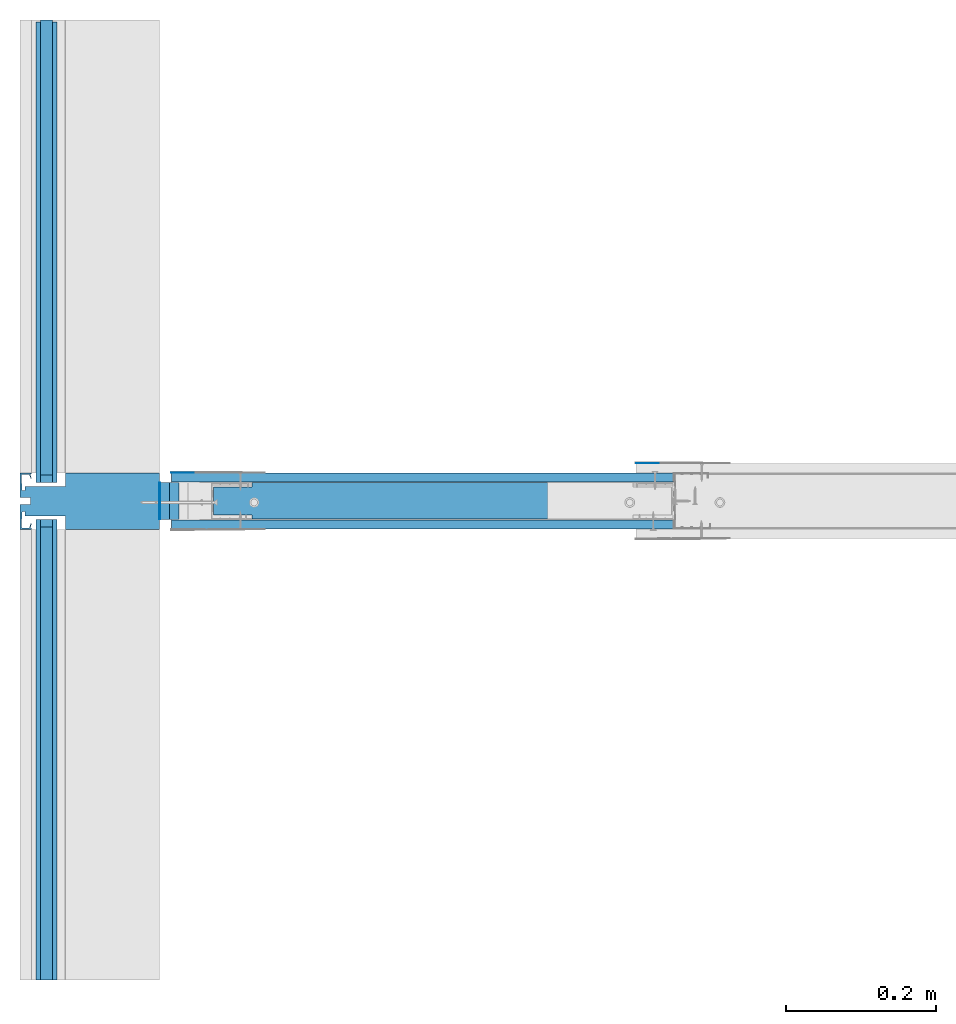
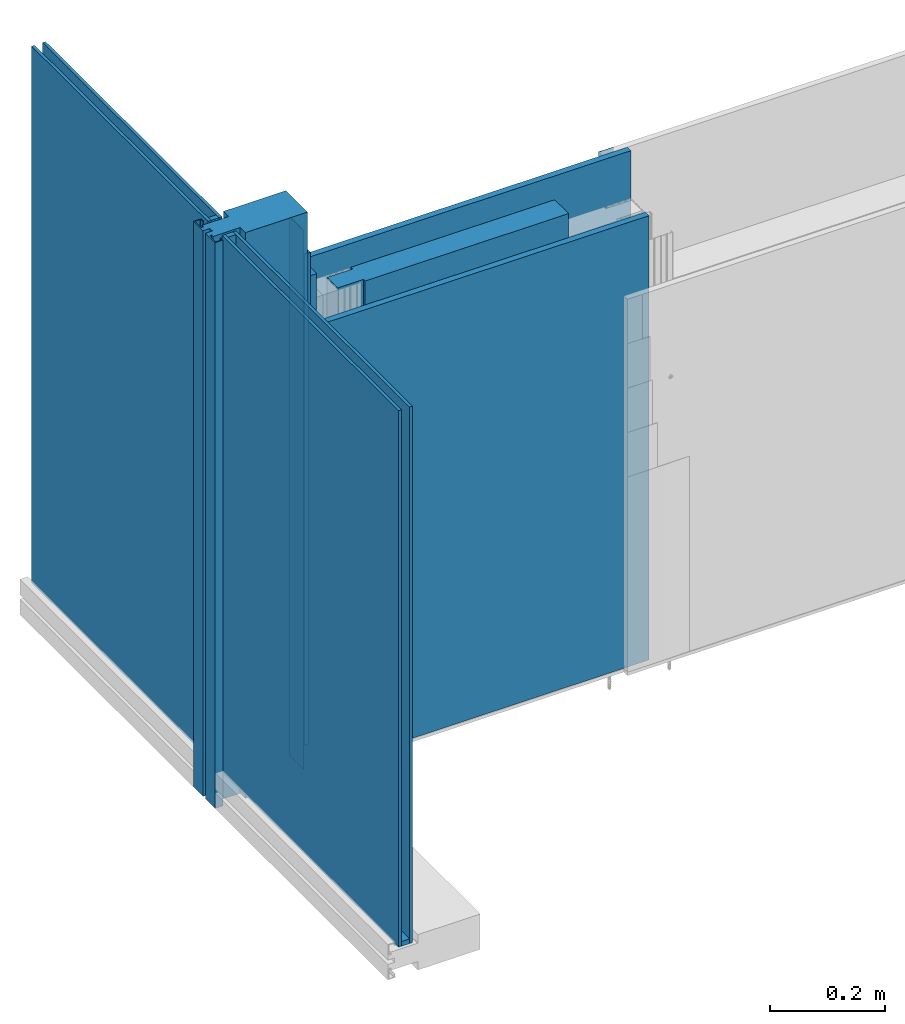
# One storey, part 1 of 42: 15 walls.
"""IFC2X3 building model written with IfcOpenShell, lengths in millimetres."""

from ifc_helpers import new_model, entity, si_unit, converted_unit, direction, frame, origin, origin_with_axes, place, context, project, spatial, faceted_brep, element, save


model = new_model("IFC2X3")

# Units and contexts
model_context = context("Model", 3, precision=1e-05, world=origin(), true_north=direction((0.0, 1.0, 0.0)))
ifc_project = project(units=[si_unit("LENGTHUNIT", "METRE", prefix="MILLI"), si_unit("AREAUNIT", "SQUARE_METRE"), si_unit("VOLUMEUNIT", "CUBIC_METRE"), converted_unit("PLANEANGLEUNIT", "DEGREE", entity("IfcPlaneAngleMeasure", 0.01745), si_unit("PLANEANGLEUNIT", "RADIAN"), dimensions=[0, 0, 0, 0, 0, 0, 0]), si_unit("SOLIDANGLEUNIT", "STERADIAN"), si_unit("MASSUNIT", "GRAM"), si_unit("TIMEUNIT", "SECOND"), si_unit("THERMODYNAMICTEMPERATUREUNIT", "DEGREE_CELSIUS"), si_unit("LUMINOUSINTENSITYUNIT", "LUMEN")], contexts=[model_context])

# Site, building, storey
site_placement = place(None, origin_with_axes())
site = spatial("IfcSite", under=ifc_project, at=site_placement, Name="Default Site", CompositionType="ELEMENT")
building_placement = place(site_placement, origin_with_axes())
building = spatial("IfcBuilding", under=site, at=building_placement, Name="Default Building", CompositionType="ELEMENT")
storey_placement = place(building_placement, origin_with_axes())
storey = spatial("IfcBuildingStorey", under=building, at=storey_placement, Name="Default Building Storey", CompositionType="ELEMENT", Elevation=0.0)

# Walls
wall_1_placement = place(storey_placement, frame((2321.896869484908, 2016.889828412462, -205.1555179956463), z_axis=(-1.0, 3.11816544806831e-16, -8.881784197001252e-16), x_axis=(8.881784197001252e-16, -2.769487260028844e-31, -1.0)))
element("IfcWall", 1, at=wall_1_placement, inside=storey, Name="Taśma uszczelniająca piankowa RIGIPS", context=model_context, shape_type="Brep", body=[
    faceted_brep([(-215.1539363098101, -24.6461696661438, 10.45350655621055), (-215.1539363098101, 24.1439810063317, 10.45350655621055), (-1357.539543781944, 24.1439810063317, 10.45350655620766), (-1357.539543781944, -24.6461696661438, 10.45350655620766), (-215.1539363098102, 24.1439810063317, 11.37091977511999), (-1357.539543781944, 24.1439810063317, 11.3709197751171), (-215.1539363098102, -24.6461696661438, 11.37091977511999), (-1357.539543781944, -24.6461696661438, 11.3709197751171)], [[[0, 1, 2, 3]], [[1, 4, 5, 2]], [[4, 6, 7, 5]], [[6, 0, 3, 7]], [[7, 3, 2, 5]], [[0, 6, 4, 1]]]),
])
wall_2_placement = place(storey_placement, frame((3526.443362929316, 1992.206788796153, 1159.99999999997), z_axis=(0.0, 0.0, 1.0), x_axis=(-1.0, -6.38677045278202e-13, 0.0)))
element("IfcWall", 2, at=wall_2_placement, inside=storey, Name="Płyta gipsowo-kartonowa RIGIPS PRO (4PRO™)", context=model_context, shape_type="Brep", body=[
    faceted_brep([(1200.00000000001, 12.50000000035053, -207.615974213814), (1200.00000000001, 2.707167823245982e-11, -207.6159742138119), (1199.999999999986, -7.652261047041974e-11, -1150.001581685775), (1199.999999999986, 12.50000000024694, -1150.001581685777), (531.2642106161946, -2.393136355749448e-10, -207.6159742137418), (531.2642106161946, 12.50000000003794, -207.6159742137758), (531.2642106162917, 12.49999999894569, -1150.001581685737), (531.2642106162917, -1.331565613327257e-09, -1150.001581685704)], [[[0, 1, 2, 3]], [[4, 1, 0, 5]], [[4, 5, 6, 7]], [[0, 3, 6, 5]], [[7, 2, 1, 4]], [[6, 3, 2, 7]]]),
])
wall_3_placement = place(storey_placement, frame((2543.604611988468, -1438.097225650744, 8.65921351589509), z_axis=(-5.938835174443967e-13, 6.598705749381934e-14, 1.0), x_axis=(1.0, -5.338611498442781e-16, 7.919791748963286e-13)))
element("IfcWall", 3, at=wall_3_placement, inside=storey, Name="Wełna mineralna szklana lub skalna ISOVER", context=model_context, shape_type="Brep", body=[
    faceted_brep([(-161.2775660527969, 3473.633223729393, -3.060216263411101), (-161.2775660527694, 3473.633223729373, 993.724812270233), (-109.9235473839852, 3473.633223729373, 993.7248122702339), (-109.9235473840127, 3473.633223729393, -3.060216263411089), (-109.9235473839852, 3479.63322372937, 993.7248122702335), (-109.9235473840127, 3479.633223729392, -3.060216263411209), (-161.2775660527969, 3436.833223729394, -3.060216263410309), (-161.2775660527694, 3436.833223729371, 993.7248122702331), (-109.923547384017, 3436.833223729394, -3.060216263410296), (-109.9235473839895, 3436.833223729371, 993.7248122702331), (-109.923547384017, 3431.283223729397, -3.060216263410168), (298.5745403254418, 3431.283223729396, -3.060216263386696), (298.5745403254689, 3431.283223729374, 993.7248122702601), (-109.9235473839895, 3431.283223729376, 993.7248122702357), (298.5745403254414, 3479.633223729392, -3.06021626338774), (298.5745403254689, 3479.633223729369, 993.72481227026)], [[[0, 1, 2, 3]], [[3, 2, 4, 5]], [[1, 0, 6, 7]], [[7, 6, 8, 9]], [[10, 11, 12, 13]], [[9, 8, 10, 13]], [[3, 5, 14, 11, 10, 8, 6, 0]], [[4, 15, 14, 5]], [[15, 4, 2, 1, 7, 9, 13, 12]], [[14, 15, 12, 11]]]),
])
wall_4_placement = place(storey_placement, frame((3526.443362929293, 2042.206788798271, 1159.99999999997), z_axis=(0.0, 0.0, 1.0), x_axis=(-1.0, 6.388565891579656e-13, 0.0)))
element("IfcWall", 4, at=wall_4_placement, inside=storey, Name="Płyta gipsowo-kartonowa RIGIPS PRO (4PRO™)", context=model_context, shape_type="Brep", body=[
    faceted_brep([(1199.999999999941, -12.50000000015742, -107.6159742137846), (1199.999999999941, -1.458261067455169e-10, -107.6159742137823), (1199.999999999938, -3.898321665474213e-11, -1150.001581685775), (1199.999999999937, -12.50000000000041, -1150.001581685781), (531.2642106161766, 1.270564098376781e-10, -107.6159742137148), (531.2642106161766, -12.5000000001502, -107.6159742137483), (531.2642106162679, -12.49999999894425, -1150.001581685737), (531.2642106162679, 1.333009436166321e-09, -1150.001581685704)], [[[0, 1, 2, 3]], [[4, 5, 6, 7]], [[0, 5, 4, 1]], [[3, 6, 5, 0]], [[2, 1, 4, 7]], [[2, 7, 6, 3]]]),
])
wall_5_placement = place(storey_placement, frame((2335.314282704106, 2016.879979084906, -205.1555179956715), z_axis=(-1.0, 5.82867087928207e-16, -8.88178419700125e-16), x_axis=(8.88178419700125e-16, -2.958228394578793e-31, -1.0)))
element("IfcWall", 5, at=wall_5_placement, inside=storey, Name="Płyta gipsowo-kartonowa RIGIPS PRO (4PRO™)", context=model_context, shape_type="Brep", body=[
    faceted_brep([(-215.1539363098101, -24.6461696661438, -1.129080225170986), (-215.1539363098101, 24.14398100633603, -1.129080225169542), (-1257.539543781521, 24.14398100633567, -1.129080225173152), (-1257.539543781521, -24.64616966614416, -1.129080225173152), (-215.1539363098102, 24.14398100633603, 11.37091977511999), (-1257.539543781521, 24.14398100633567, 11.37091977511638), (-215.1539363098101, -24.6461696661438, 11.37091977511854), (-1257.539543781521, -24.64616966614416, 11.37091977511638)], [[[0, 1, 2, 3]], [[1, 4, 5, 2]], [[4, 6, 7, 5]], [[6, 0, 3, 7]], [[7, 3, 2, 5]], [[0, 6, 4, 1]]]),
])
wall_6_placement = place(storey_placement, frame((2322.814282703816, 2016.879979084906, -205.1555179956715), z_axis=(-1.0, 5.82867087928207e-16, -8.88178419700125e-16), x_axis=(8.88178419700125e-16, -2.958228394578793e-31, -1.0)))
element("IfcWall", 6, at=wall_6_placement, inside=storey, Name="Płyta gipsowo-kartonowa RIGIPS PRO (4PRO™)", context=model_context, shape_type="Brep", body=[
    faceted_brep([(-215.1539363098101, -24.6461696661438, -1.129080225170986), (-215.1539363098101, 24.14398100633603, -1.129080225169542), (-1307.539543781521, 24.14398100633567, -1.129080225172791), (-1307.539543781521, -24.64616966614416, -1.129080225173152), (-215.1539363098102, 24.14398100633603, 11.37091977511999), (-1307.539543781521, 24.14398100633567, 11.37091977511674), (-215.1539363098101, -24.6461696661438, 11.37091977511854), (-1307.539543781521, -24.64616966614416, 11.37091977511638)], [[[0, 1, 2, 3]], [[1, 4, 5, 2]], [[4, 6, 7, 5]], [[6, 0, 3, 7]], [[7, 3, 2, 5]], [[0, 6, 4, 1]]]),
])
wall_7_placement = place(storey_placement, frame((2125.025133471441, 1979.547968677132, -5.672125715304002e-11), z_axis=(5.495550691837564e-14, 5.441407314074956e-14, 1.0), x_axis=(-4.479749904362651e-14, 1.0, -5.441407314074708e-14)))
element("IfcWall", 7, at=wall_7_placement, inside=storey, Name="ELEWACJA", context=model_context, shape_type="Brep", body=[
    faceted_brep([(22.6999909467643, -2.500000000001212, 1200.000786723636), (17.69999395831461, -2.500000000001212, 1200.000786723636), (6.248111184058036, -1.999999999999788, 1200.000786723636), (2.799984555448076, -2.000000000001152, 1200.000786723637), (1.799984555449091, -3.000000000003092, 1200.000786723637), (1.799984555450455, -12.20000000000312, 1200.000786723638), (2.099984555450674, -12.50000000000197, 1200.000786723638), (2.5115767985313, -12.50000000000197, 1200.000786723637), (7.605196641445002, -14.35392600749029, 1200.000786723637), (7.194772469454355, -15.48155715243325, 1200.000786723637), (2.299984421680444, -13.70000000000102, 1200.000786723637), (1.499984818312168, -13.70000000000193, 1200.000786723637), (1.799984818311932, -15.50000000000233, 1200.000786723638), (-2.357096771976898e-28, -15.50000000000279, 1200.000786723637), (-6.91537750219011e-42, -4.547473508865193e-13, 1200.000786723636), (32.99996582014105, -1.818989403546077e-12, 1200.000786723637), (32.9999658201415, -13.80000000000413, 1200.000786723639), (42.00157193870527, -13.80000000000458, 1200.000786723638), (42.0015719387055, -9.094947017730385e-13, 1200.000786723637), (75.00157344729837, -4.547473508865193e-13, 1200.000786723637), (75.00157344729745, -15.00000000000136, 1200.000786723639), (74.50158889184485, -15.50000000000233, 1200.000786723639), (73.20158862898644, -15.50000000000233, 1200.00078672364), (73.50158862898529, -13.70000000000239, 1200.000786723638), (72.70158902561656, -13.70000000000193, 1200.000786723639), (67.806800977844, -15.48155715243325, 1200.000786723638), (67.39637680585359, -14.35392600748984, 1200.000786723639), (72.48999664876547, -12.50000000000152, 1200.000786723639), (72.90158889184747, -12.50000000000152, 1200.000786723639), (73.20158889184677, -12.20000000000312, 1200.000786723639), (73.20158889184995, -3.000000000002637, 1200.000786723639), (72.20158889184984, -2.000000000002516, 1200.000786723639), (68.75346226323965, -2.000000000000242, 1200.000786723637), (57.30157948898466, -2.500000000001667, 1200.000786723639), (52.30158250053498, -2.500000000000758, 1200.000786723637), (51.30158250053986, -3.500003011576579, 1200.000786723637), (51.30159153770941, -6.500816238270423, 1200.000786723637), (57.00160295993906, -6.500816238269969, 1200.000786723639), (57.00160295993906, -60.50081623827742, 1200.000786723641), (75.00078672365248, -60.50081623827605, 1200.000786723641), (75.00078672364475, -185.5008162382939, 1200.000786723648), (0.0007867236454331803, -185.5008162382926, 1200.000786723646), (0.0007867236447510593, -60.50081623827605, 1200.00078672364), (17.49997048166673, -60.50081623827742, 1200.00078672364), (17.99997048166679, -60.00081624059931, 1200.00078672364), (17.99997051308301, -6.500816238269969, 1200.000786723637), (23.69999094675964, -6.50081623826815, 1200.000786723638), (23.6999909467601, -3.500003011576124, 1200.000786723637), (17.49997048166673, -60.50081623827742, -1.009730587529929e-25), (17.99997048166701, -60.00081624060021, -1.526918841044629e-25), (0.0007867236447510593, -60.50081623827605, -1.00973058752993e-25), (72.70158902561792, -13.70000000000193, -5.114977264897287e-26), (67.80680097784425, -15.48155715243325, -7.692777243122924e-26), (17.99997051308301, -6.500816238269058, -1.031370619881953e-25), (23.69999094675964, -6.500816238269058, -5.143827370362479e-26), (57.00160295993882, -60.50081623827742, 5.412330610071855e-26), (75.00078672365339, -60.50081623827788, 5.412330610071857e-26), (73.50158862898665, -13.70000000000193, 5.490156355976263e-28), (23.6999909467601, -3.500003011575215, -5.155852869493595e-26), (22.6999909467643, -2.500000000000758, -5.159860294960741e-26), (75.00157344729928, 1.364242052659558e-12, -1.03397576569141e-25), (75.00157344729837, -15.00000000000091, -1.027964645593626e-25), (73.20158862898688, -15.50000000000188, -7.692703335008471e-26), (42.00157193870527, 7.529861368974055e-30, -5.16987882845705e-26), (75.00078672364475, -185.5008162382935, 7.433784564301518e-27), (51.3015825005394, -3.500003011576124, -2.570913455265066e-26), (51.30159153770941, -6.500816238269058, -1.548358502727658e-25), (52.30158250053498, -2.500000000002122, -5.159860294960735e-26), (32.99996582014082, -1.364242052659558e-12, -1.033975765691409e-25), (32.99996582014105, -13.80000000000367, -5.114576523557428e-26), (67.39637680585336, -14.35392600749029, -7.69729612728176e-26), (0.000786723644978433, -185.5008162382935, -1.841560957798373e-26), (74.50158889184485, -15.50000000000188, -5.107763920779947e-26), (72.90158889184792, -12.50000000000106, -5.119786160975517e-26), (73.2015888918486, -12.20000000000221, -5.120988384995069e-26), (17.69999395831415, -2.500000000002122, -1.032973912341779e-25), (57.30157948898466, -2.500000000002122, -1.549961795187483e-25), (73.20158889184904, -3.000000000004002, -7.742796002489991e-26), (72.20158889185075, -2.000000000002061, -1.033174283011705e-25), (42.00157193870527, -13.80000000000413, -1.028445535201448e-25), (0.0, 0.0, -2.584939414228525e-26), (57.00160295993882, -6.500816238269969, -2.558887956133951e-26), (68.7534622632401, -2.000000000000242, -1.033174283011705e-25), (72.48999664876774, -12.50000000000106, -5.119786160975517e-26), (-2.357096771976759e-28, -15.50000000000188, -5.107763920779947e-26), (1.799984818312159, -15.50000000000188, -5.107763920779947e-26), (1.499984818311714, -13.70000000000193, -2.530037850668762e-26), (2.299984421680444, -13.70000000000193, -5.114977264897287e-26), (7.194772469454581, -15.4815571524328, -1.027771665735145e-25), (7.60519664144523, -14.35392600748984, -7.697296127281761e-26), (2.5115767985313, -12.50000000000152, -1.028966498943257e-25), (2.099984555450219, -12.50000000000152, -7.704725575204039e-26), (1.799984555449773, -12.20000000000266, -1.804568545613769e-25), (1.799984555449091, -3.000000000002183, -1.549761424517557e-25), (2.799984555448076, -2.000000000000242, -1.033174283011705e-25), (6.248111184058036, -2.000000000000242, -1.033174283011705e-25)], [[[0, 1, 2, 3, 4, 5, 6, 7, 8, 9, 10, 11, 12, 13, 14, 15, 16, 17, 18, 19, 20, 21, 22, 23, 24, 25, 26, 27, 28, 29, 30, 31, 32, 33, 34, 35, 36, 37, 38, 39, 40, 41, 42, 43, 44, 45, 46, 47]], [[43, 48, 49, 44]], [[42, 50, 48, 43]], [[24, 51, 52, 25]], [[45, 53, 54, 46]], [[38, 55, 56, 39]], [[23, 57, 51, 24]], [[47, 58, 59, 0]], [[19, 60, 61, 20]], [[22, 62, 57, 23]], [[18, 63, 60, 19]], [[39, 56, 64, 40]], [[35, 65, 66, 36]], [[34, 67, 65, 35]], [[15, 68, 69, 16]], [[25, 52, 70, 26]], [[40, 64, 71, 41]], [[46, 54, 58, 47]], [[20, 61, 72, 21]], [[21, 72, 62, 22]], [[28, 73, 74, 29]], [[0, 59, 75, 1]], [[33, 76, 67, 34]], [[30, 77, 78, 31]], [[16, 69, 79, 17]], [[14, 80, 68, 15]], [[37, 81, 55, 38]], [[31, 78, 82, 32]], [[36, 66, 81, 37]], [[44, 49, 53, 45]], [[27, 83, 73, 28]], [[41, 71, 50, 42]], [[32, 82, 76, 33]], [[17, 79, 63, 18]], [[26, 70, 83, 27]], [[29, 74, 77, 30]], [[68, 80, 84, 85, 86, 87, 88, 89, 90, 91, 92, 93, 94, 95, 75, 59, 58, 54, 53, 49, 48, 50, 71, 64, 56, 55, 81, 66, 65, 67, 76, 82, 78, 77, 74, 73, 83, 70, 52, 51, 57, 62, 72, 61, 60, 63, 79, 69]], [[13, 84, 80, 14]], [[12, 85, 84, 13]], [[7, 90, 89, 8]], [[11, 86, 85, 12]], [[10, 87, 86, 11]], [[4, 93, 92, 5]], [[2, 95, 94, 3]], [[5, 92, 91, 6]], [[9, 88, 87, 10]], [[6, 91, 90, 7]], [[3, 94, 93, 4]], [[8, 89, 88, 9]], [[1, 75, 95, 2]]]),
])
wall_8_placement = place(storey_placement, frame((2152.525949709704, 2041.549178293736, 62.00160295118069), z_axis=(5.495550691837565e-14, 5.441407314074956e-14, 1.0), x_axis=(-4.479749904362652e-14, 1.0, -5.44140731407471e-14)))
element("IfcWall", 8, at=wall_8_placement, inside=storey, Name="ELEWACJA", context=model_context, shape_type="Brep", body=[
    faceted_brep([(10.0000000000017, -3.609557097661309e-13, 1137.999183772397), (10.00000000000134, -3.609557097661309e-13, 10.00000000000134), (9.999999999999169, -16.00000000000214, 10.00000000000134), (10.0000000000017, -16.00000000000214, 1137.999183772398), (-3.224254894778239e-29, -15.99999999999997, 1137.999183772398), (3.636916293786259e-42, 1.804778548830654e-12, 1137.999183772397), (0.0, 0.0, 0.0), (615.9442397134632, -2.526689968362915e-12, 0.0), (615.9442397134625, -2.887645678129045e-12, 10.00000000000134), (615.9442397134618, -16.00000000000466, 10.00000000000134), (615.9442397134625, -16.00000000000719, 0.0), (-3.224254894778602e-29, -16.00000000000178, -7.895906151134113e-14)], [[[0, 1, 2, 3]], [[3, 4, 5, 0]], [[5, 6, 7, 8, 1, 0]], [[3, 2, 9, 10, 11, 4]], [[9, 8, 7, 10]], [[9, 2, 1, 8]], [[7, 6, 11, 10]], [[4, 11, 6, 5]]]),
])
wall_9_placement = place(storey_placement, frame((2152.525949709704, 966.5491782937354, 62.00160295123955), z_axis=(5.495550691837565e-14, 5.441407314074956e-14, 1.0), x_axis=(-4.479749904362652e-14, 1.0, -5.44140731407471e-14)))
element("IfcWall", 9, at=wall_9_placement, inside=storey, Name="ELEWACJA", context=model_context, shape_type="Brep", body=[
    faceted_brep([(412.9995771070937, -1.082867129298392e-12, 0.0), (412.9995771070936, 1.443822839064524e-12, 10.00000000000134), (412.9995771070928, -15.99999999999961, 10.00000000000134), (412.999577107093, -16.00000000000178, -1.127986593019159e-14), (1015.99876088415, -16.00000000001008, 1137.999183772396), (1015.99876088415, -6.497202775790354e-12, 1137.999183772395), (1025.998760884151, -6.497202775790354e-12, 1137.999183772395), (1025.998760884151, -16.000000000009, 1137.999183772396), (1015.998760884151, -16.00000000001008, 164.9983970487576), (1015.99876088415, -15.99999999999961, 10.00000000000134), (1015.998760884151, 2.165734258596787e-12, 10.00000000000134), (1015.998760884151, -7.941025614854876e-12, 164.9983970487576), (1025.998760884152, -16.00000000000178, 0.0), (1025.998760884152, 2.067550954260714e-27, 0.0), (1025.998760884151, -7.941025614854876e-12, 164.9983970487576), (1025.998760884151, -16.00000000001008, 164.9983970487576)], [[[0, 1, 2, 3]], [[4, 5, 6, 7]], [[4, 8, 9, 10, 11, 5]], [[12, 13, 0, 3]], [[1, 10, 9, 2]], [[5, 11, 10, 1, 0, 13, 14, 6]], [[6, 14, 13, 12, 15, 7]], [[7, 15, 12, 3, 2, 9, 8, 4]]]),
])
for number, where, z_axis, x_axis in (
    (10, (2168.525949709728, 1379.548755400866, 1200.000786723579), (0.0, 0.0, 1.0), (1.0, 0.0, 0.0)),
    (11, (2146.525949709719, 1379.548755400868, 1200.000786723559), (0.0, 0.0, 1.0), (1.0, 0.0, 0.0)),
    (12, (2146.525949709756, 2041.549178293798, 1200.000786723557), (0.0, 0.0, 1.0), (1.0, 0.0, 0.0)),
    (13, (2168.525949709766, 2041.549178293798, 1200.000786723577), (0.0, 0.0, 1.0), (1.0, 0.0, 0.0)),
):
    element("IfcWall", number, at=place(storey_placement, frame(where, z_axis=z_axis, x_axis=x_axis)), inside=storey, Name="ELEWACJA", context=model_context, shape_type="Brep", body=[
        faceted_brep([(0.0, 0.0, 2.003304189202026e-11), (0.0, 612.999183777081, 2.003304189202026e-11), (-1.897183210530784e-09, 612.9991837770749, -1137.999183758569), (-1.897183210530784e-09, -2.147686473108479e-11, -1137.999183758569), (6.000000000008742, 612.999183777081, 0.0), (5.999999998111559, 612.9991837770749, -1137.999183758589), (6.000000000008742, 0.0, 2.003304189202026e-11), (5.999999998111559, -2.147686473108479e-11, -1137.999183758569)], [[[0, 1, 2, 3]], [[1, 4, 5, 2]], [[4, 6, 7, 5]], [[6, 0, 3, 7]], [[7, 3, 2, 5]], [[0, 6, 4, 1]]]),
    ])
for number, where, z_axis, x_axis, name in (
    (14, (2376.44336292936, 2054.890915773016, 928.2909982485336), (-1.0, 0.0, 1.687693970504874e-15), (1.095970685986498e-15, 0.0, 1.0), "Dedykowana masa szpachlowa Rigips - konstrukcyjna"),
    (15, (2995.179152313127, 2067.430070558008, 928.2909982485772), (-1.0, 0.0, 1.687693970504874e-15), (1.095970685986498e-15, 0.0, 1.0), "Dedykowana masa szpachlowa Rigips - konstrukcyjna"),
):
    element("IfcWall", number, at=place(storey_placement, frame(where, z_axis=z_axis, x_axis=x_axis)), inside=storey, Name=name, context=model_context, shape_type="Brep", body=[
        faceted_brep([(124.0930275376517, 0.0, 19.99999999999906), (-918.2925799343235, 0.0, 19.99999999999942), (-918.2925799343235, -0.1841269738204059, 19.99999999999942), (124.0930275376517, -0.1841269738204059, 19.99999999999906), (124.0930275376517, 0.0, 49.99999999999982), (124.0930275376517, -0.1841269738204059, 49.99999999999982), (-918.2925799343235, 0.0, 50.00000000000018), (-918.2925799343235, -0.1841269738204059, 50.00000000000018)], [[[0, 1, 2, 3]], [[4, 0, 3, 5]], [[6, 4, 5, 7]], [[1, 6, 7, 2]], [[2, 7, 5, 3]], [[6, 1, 0, 4]]]),
    ])

save(model, "model.ifc")
